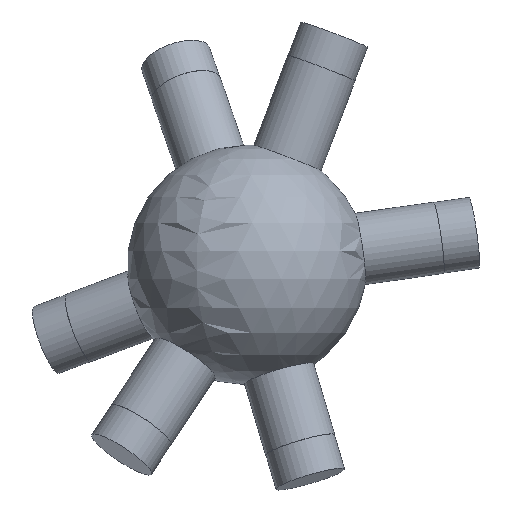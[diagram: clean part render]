
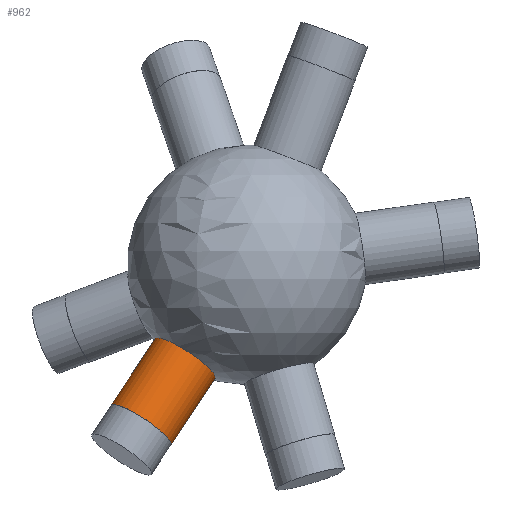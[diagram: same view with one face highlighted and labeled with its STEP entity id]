
A CAD part, left-side view. The second image highlights one B-rep face of the part: STEP entity #962.
In plain terms, the highlighted cylindrical face has radius 6 mm (diameter 12 mm), a full revolution.
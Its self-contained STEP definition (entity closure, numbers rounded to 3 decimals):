
#33 = SPHERICAL_SURFACE('',#34,20.);
#34 = AXIS2_PLACEMENT_3D('',#35,#36,#37);
#35 = CARTESIAN_POINT('',(0.,0.,0.));
#36 = DIRECTION('',(0.,0.,1.));
#37 = DIRECTION('',(1.,0.,-0.));
#233 = EDGE_CURVE('',#234,#234,#236,.T.);
#234 = VERTEX_POINT('',#235);
#235 = CARTESIAN_POINT('',(-3.768,5.314,
    -18.909));
#236 = SURFACE_CURVE('',#237,(#242,#332),.PCURVE_S1.);
#237 = CIRCLE('',#238,6.);
#238 = AXIS2_PLACEMENT_3D('',#239,#240,#241);
#239 = CARTESIAN_POINT('',(-3.768,10.318,
    -15.599));
#240 = DIRECTION('',(-0.197,0.541,-0.818));
#241 = DIRECTION('',(0.,0.834,0.552));
#242 = PCURVE('',#33,#243);
#243 = DEFINITIONAL_REPRESENTATION('',(#244),#331);
#244 = B_SPLINE_CURVE_WITH_KNOTS('',8,(#245,#246,#247,#248,#249,#250,
    #251,#252,#253,#254,#255,#256,#257,#258,#259,#260,#261,#262,#263,
    #264,#265,#266,#267,#268,#269,#270,#271,#272,#273,#274,#275,#276,
    #277,#278,#279,#280,#281,#282,#283,#284,#285,#286,#287,#288,#289,
    #290,#291,#292,#293,#294,#295,#296,#297,#298,#299,#300,#301,#302,
    #303,#304,#305,#306,#307,#308,#309,#310,#311,#312,#313,#314,#315,
    #316,#317,#318,#319,#320,#321,#322,#323,#324,#325,#326,#327,#328,
    #329,#330),.UNSPECIFIED.,.F.,.F.,(9,7,7,7,7,7,7,7,7,7,7,7,9),(
    3.142,3.534,3.902,4.593,
    5.801,6.707,7.386,7.896,
    8.278,8.565,8.995,9.21,
    9.425),.UNSPECIFIED.);
#245 = CARTESIAN_POINT('',(2.188,-1.239));
#246 = CARTESIAN_POINT('',(2.227,-1.232));
#247 = CARTESIAN_POINT('',(2.262,-1.223));
#248 = CARTESIAN_POINT('',(2.295,-1.213));
#249 = CARTESIAN_POINT('',(2.324,-1.202));
#250 = CARTESIAN_POINT('',(2.349,-1.191));
#251 = CARTESIAN_POINT('',(2.371,-1.179));
#252 = CARTESIAN_POINT('',(2.39,-1.166));
#253 = CARTESIAN_POINT('',(2.421,-1.141));
#254 = CARTESIAN_POINT('',(2.434,-1.128));
#255 = CARTESIAN_POINT('',(2.444,-1.115));
#256 = CARTESIAN_POINT('',(2.453,-1.101));
#257 = CARTESIAN_POINT('',(2.459,-1.088));
#258 = CARTESIAN_POINT('',(2.464,-1.074));
#259 = CARTESIAN_POINT('',(2.467,-1.06));
#260 = CARTESIAN_POINT('',(2.471,-1.021));
#261 = CARTESIAN_POINT('',(2.469,-0.995));
#262 = CARTESIAN_POINT('',(2.462,-0.969));
#263 = CARTESIAN_POINT('',(2.452,-0.944));
#264 = CARTESIAN_POINT('',(2.439,-0.919));
#265 = CARTESIAN_POINT('',(2.423,-0.895));
#266 = CARTESIAN_POINT('',(2.405,-0.871));
#267 = CARTESIAN_POINT('',(2.35,-0.81));
#268 = CARTESIAN_POINT('',(2.308,-0.774));
#269 = CARTESIAN_POINT('',(2.263,-0.742));
#270 = CARTESIAN_POINT('',(2.213,-0.715));
#271 = CARTESIAN_POINT('',(2.161,-0.692));
#272 = CARTESIAN_POINT('',(2.106,-0.675));
#273 = CARTESIAN_POINT('',(2.05,-0.663));
#274 = CARTESIAN_POINT('',(1.951,-0.652));
#275 = CARTESIAN_POINT('',(1.908,-0.65));
#276 = CARTESIAN_POINT('',(1.865,-0.652));
#277 = CARTESIAN_POINT('',(1.822,-0.657));
#278 = CARTESIAN_POINT('',(1.78,-0.665));
#279 = CARTESIAN_POINT('',(1.739,-0.676));
#280 = CARTESIAN_POINT('',(1.698,-0.69));
#281 = CARTESIAN_POINT('',(1.631,-0.719));
#282 = CARTESIAN_POINT('',(1.602,-0.734));
#283 = CARTESIAN_POINT('',(1.575,-0.749));
#284 = CARTESIAN_POINT('',(1.549,-0.766));
#285 = CARTESIAN_POINT('',(1.524,-0.785));
#286 = CARTESIAN_POINT('',(1.5,-0.805));
#287 = CARTESIAN_POINT('',(1.479,-0.825));
#288 = CARTESIAN_POINT('',(1.444,-0.864));
#289 = CARTESIAN_POINT('',(1.43,-0.881));
#290 = CARTESIAN_POINT('',(1.417,-0.898));
#291 = CARTESIAN_POINT('',(1.406,-0.916));
#292 = CARTESIAN_POINT('',(1.396,-0.934));
#293 = CARTESIAN_POINT('',(1.388,-0.953));
#294 = CARTESIAN_POINT('',(1.382,-0.971));
#295 = CARTESIAN_POINT('',(1.374,-1.005));
#296 = CARTESIAN_POINT('',(1.372,-1.019));
#297 = CARTESIAN_POINT('',(1.372,-1.033));
#298 = CARTESIAN_POINT('',(1.372,-1.048));
#299 = CARTESIAN_POINT('',(1.375,-1.062));
#300 = CARTESIAN_POINT('',(1.379,-1.076));
#301 = CARTESIAN_POINT('',(1.385,-1.09));
#302 = CARTESIAN_POINT('',(1.399,-1.115));
#303 = CARTESIAN_POINT('',(1.406,-1.125));
#304 = CARTESIAN_POINT('',(1.415,-1.135));
#305 = CARTESIAN_POINT('',(1.425,-1.145));
#306 = CARTESIAN_POINT('',(1.436,-1.155));
#307 = CARTESIAN_POINT('',(1.449,-1.164));
#308 = CARTESIAN_POINT('',(1.463,-1.173));
#309 = CARTESIAN_POINT('',(1.504,-1.195));
#310 = CARTESIAN_POINT('',(1.532,-1.208));
#311 = CARTESIAN_POINT('',(1.565,-1.219));
#312 = CARTESIAN_POINT('',(1.601,-1.23));
#313 = CARTESIAN_POINT('',(1.642,-1.239));
#314 = CARTESIAN_POINT('',(1.687,-1.246));
#315 = CARTESIAN_POINT('',(1.735,-1.252));
#316 = CARTESIAN_POINT('',(1.81,-1.259));
#317 = CARTESIAN_POINT('',(1.836,-1.26));
#318 = CARTESIAN_POINT('',(1.862,-1.261));
#319 = CARTESIAN_POINT('',(1.889,-1.262));
#320 = CARTESIAN_POINT('',(1.915,-1.262));
#321 = CARTESIAN_POINT('',(1.942,-1.262));
#322 = CARTESIAN_POINT('',(1.969,-1.261));
#323 = CARTESIAN_POINT('',(2.021,-1.259));
#324 = CARTESIAN_POINT('',(2.047,-1.258));
#325 = CARTESIAN_POINT('',(2.072,-1.256));
#326 = CARTESIAN_POINT('',(2.097,-1.253));
#327 = CARTESIAN_POINT('',(2.121,-1.25));
#328 = CARTESIAN_POINT('',(2.144,-1.247));
#329 = CARTESIAN_POINT('',(2.166,-1.243));
#330 = CARTESIAN_POINT('',(2.188,-1.239));
#331 = ( GEOMETRIC_REPRESENTATION_CONTEXT(2) 
PARAMETRIC_REPRESENTATION_CONTEXT() REPRESENTATION_CONTEXT('2D SPACE',''
  ) );
#332 = PCURVE('',#333,#338);
#333 = CYLINDRICAL_SURFACE('',#334,6.);
#334 = AXIS2_PLACEMENT_3D('',#335,#336,#337);
#335 = CARTESIAN_POINT('',(0.,0.,0.));
#336 = DIRECTION('',(-0.197,0.541,-0.818));
#337 = DIRECTION('',(0.,-0.834,-0.552));
#338 = DEFINITIONAL_REPRESENTATION('',(#339),#343);
#339 = LINE('',#340,#341);
#340 = CARTESIAN_POINT('',(-3.142,19.079));
#341 = VECTOR('',#342,1.);
#342 = DIRECTION('',(1.,0.));
#343 = ( GEOMETRIC_REPRESENTATION_CONTEXT(2) 
PARAMETRIC_REPRESENTATION_CONTEXT() REPRESENTATION_CONTEXT('2D SPACE',''
  ) );
#962 = ADVANCED_FACE('',(#963),#333,.T.);
#963 = FACE_BOUND('',#964,.T.);
#964 = EDGE_LOOP('',(#965,#988,#1015,#1016));
#965 = ORIENTED_EDGE('',*,*,#966,.T.);
#966 = EDGE_CURVE('',#234,#967,#969,.T.);
#967 = VERTEX_POINT('',#968);
#968 = CARTESIAN_POINT('',(-6.455,12.674,
    -30.035));
#969 = SEAM_CURVE('',#970,(#974,#981),.PCURVE_S1.);
#970 = LINE('',#971,#972);
#971 = CARTESIAN_POINT('',(0.,-5.004,
    -3.31));
#972 = VECTOR('',#973,1.);
#973 = DIRECTION('',(-0.197,0.541,-0.818));
#974 = PCURVE('',#333,#975);
#975 = DEFINITIONAL_REPRESENTATION('',(#976),#980);
#976 = LINE('',#977,#978);
#977 = CARTESIAN_POINT('',(6.283,-0.));
#978 = VECTOR('',#979,1.);
#979 = DIRECTION('',(0.,1.));
#980 = ( GEOMETRIC_REPRESENTATION_CONTEXT(2) 
PARAMETRIC_REPRESENTATION_CONTEXT() REPRESENTATION_CONTEXT('2D SPACE',''
  ) );
#981 = PCURVE('',#333,#982);
#982 = DEFINITIONAL_REPRESENTATION('',(#983),#987);
#983 = LINE('',#984,#985);
#984 = CARTESIAN_POINT('',(0.,-0.));
#985 = VECTOR('',#986,1.);
#986 = DIRECTION('',(0.,1.));
#987 = ( GEOMETRIC_REPRESENTATION_CONTEXT(2) 
PARAMETRIC_REPRESENTATION_CONTEXT() REPRESENTATION_CONTEXT('2D SPACE',''
  ) );
#988 = ORIENTED_EDGE('',*,*,#989,.F.);
#989 = EDGE_CURVE('',#967,#967,#990,.T.);
#990 = SURFACE_CURVE('',#991,(#996,#1003),.PCURVE_S1.);
#991 = CIRCLE('',#992,6.);
#992 = AXIS2_PLACEMENT_3D('',#993,#994,#995);
#993 = CARTESIAN_POINT('',(-6.455,17.678,
    -26.725));
#994 = DIRECTION('',(-0.197,0.541,-0.818));
#995 = DIRECTION('',(0.,-0.834,-0.552));
#996 = PCURVE('',#333,#997);
#997 = DEFINITIONAL_REPRESENTATION('',(#998),#1002);
#998 = LINE('',#999,#1000);
#999 = CARTESIAN_POINT('',(0.,32.686));
#1000 = VECTOR('',#1001,1.);
#1001 = DIRECTION('',(1.,0.));
#1002 = ( GEOMETRIC_REPRESENTATION_CONTEXT(2) 
PARAMETRIC_REPRESENTATION_CONTEXT() REPRESENTATION_CONTEXT('2D SPACE',''
  ) );
#1003 = PCURVE('',#1004,#1009);
#1004 = PLANE('',#1005);
#1005 = AXIS2_PLACEMENT_3D('',#1006,#1007,#1008);
#1006 = CARTESIAN_POINT('',(-6.455,17.678,
    -26.725));
#1007 = DIRECTION('',(-0.197,0.541,-0.818));
#1008 = DIRECTION('',(0.,-0.834,-0.552)
  );
#1009 = DEFINITIONAL_REPRESENTATION('',(#1010),#1014);
#1010 = CIRCLE('',#1011,6.);
#1011 = AXIS2_PLACEMENT_2D('',#1012,#1013);
#1012 = CARTESIAN_POINT('',(0.,0.));
#1013 = DIRECTION('',(1.,0.));
#1014 = ( GEOMETRIC_REPRESENTATION_CONTEXT(2) 
PARAMETRIC_REPRESENTATION_CONTEXT() REPRESENTATION_CONTEXT('2D SPACE',''
  ) );
#1015 = ORIENTED_EDGE('',*,*,#966,.F.);
#1016 = ORIENTED_EDGE('',*,*,#233,.T.);
